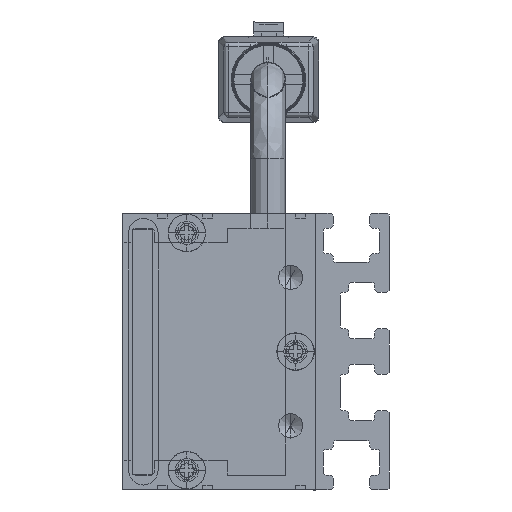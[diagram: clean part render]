
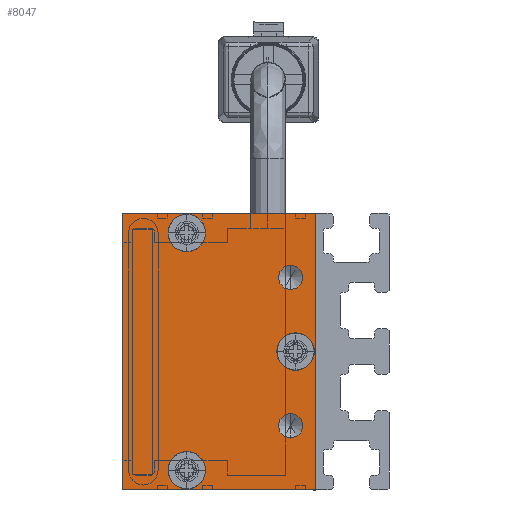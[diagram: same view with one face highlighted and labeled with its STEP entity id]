
A CAD part, left-side view. The second image highlights one B-rep face of the part: STEP entity #8047.
In plain terms, the highlighted planar face has unit normal (-1, 0, 0) as drawn and (0, 0, -1) by its records, which use the part's own axes.
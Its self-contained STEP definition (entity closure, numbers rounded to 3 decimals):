
#79 = CARTESIAN_POINT ( 'NONE',  ( 0., 2., -2.5 ) ) ;
#84 = VECTOR ( 'NONE', #10727, 1000. ) ;
#87 = EDGE_CURVE ( 'NONE', #282, #6640, #9477, .T. ) ;
#282 = VERTEX_POINT ( 'NONE', #3475 ) ;
#326 = VERTEX_POINT ( 'NONE', #2276 ) ;
#575 = CARTESIAN_POINT ( 'NONE',  ( -1.9, 2., -2.5 ) ) ;
#612 = CARTESIAN_POINT ( 'NONE',  ( -12., 13., -2.5 ) ) ;
#841 = CARTESIAN_POINT ( 'NONE',  ( 14., 19.5, -2.5 ) ) ;
#901 = FACE_OUTER_BOUND ( 'NONE', #4913, .T. ) ;
#913 = CARTESIAN_POINT ( 'NONE',  ( 14., 0., -2.5 ) ) ;
#964 = DIRECTION ( 'NONE',  ( -1., 0., 0. ) ) ;
#1053 = DIRECTION ( 'NONE',  ( 0., 0., -1. ) ) ;
#1056 = CARTESIAN_POINT ( 'NONE',  ( 14., 0., -2.5 ) ) ;
#1088 = AXIS2_PLACEMENT_3D ( 'NONE', #2171, #3171, #13031 ) ;
#1117 = CIRCLE ( 'NONE', #12235, 1.9 ) ;
#1308 = DIRECTION ( 'NONE',  ( -1., 0., 0. ) ) ;
#1373 = EDGE_CURVE ( 'NONE', #326, #11879, #8151, .T. ) ;
#1428 = EDGE_LOOP ( 'NONE', ( #2716, #10143 ) ) ;
#1544 = CARTESIAN_POINT ( 'NONE',  ( 12., 13., -2.5 ) ) ;
#1550 = DIRECTION ( 'NONE',  ( -1., 0., 0. ) ) ;
#1559 = EDGE_CURVE ( 'NONE', #11879, #10570, #3478, .T. ) ;
#1588 = CIRCLE ( 'NONE', #9559, 1.9 ) ;
#2171 = CARTESIAN_POINT ( 'NONE',  ( -7.5, 2.5, -2.5 ) ) ;
#2276 = CARTESIAN_POINT ( 'NONE',  ( 14., 19.5, -2.5 ) ) ;
#2284 = DIRECTION ( 'NONE',  ( 0., 0., -1. ) ) ;
#2316 = CARTESIAN_POINT ( 'NONE',  ( 1.9, 2., -2.5 ) ) ;
#2549 = CARTESIAN_POINT ( 'NONE',  ( 12., 13., -2.5 ) ) ;
#2716 = ORIENTED_EDGE ( 'NONE', *, *, #4802, .F. ) ;
#2905 = PLANE ( 'NONE',  #10510 ) ;
#2940 = AXIS2_PLACEMENT_3D ( 'NONE', #2549, #13461, #1550 ) ;
#3030 = FACE_BOUND ( 'NONE', #5653, .T. ) ;
#3171 = DIRECTION ( 'NONE',  ( 0., 0., -1. ) ) ;
#3338 = DIRECTION ( 'NONE',  ( 0., -1., 0. ) ) ;
#3345 = DIRECTION ( 'NONE',  ( -1., 0., 0. ) ) ;
#3475 = CARTESIAN_POINT ( 'NONE',  ( -6.25, 2.5, -2.5 ) ) ;
#3478 = LINE ( 'NONE', #9056, #8217 ) ;
#3527 = EDGE_CURVE ( 'NONE', #4820, #8877, #10660, .T. ) ;
#3578 = CARTESIAN_POINT ( 'NONE',  ( -8.75, 2.5, -2.5 ) ) ;
#3777 = EDGE_CURVE ( 'NONE', #13880, #10820, #13475, .T. ) ;
#3779 = CARTESIAN_POINT ( 'NONE',  ( 10.1, 13., -2.5 ) ) ;
#3903 = DIRECTION ( 'NONE',  ( 0., 1., 0. ) ) ;
#4109 = FACE_BOUND ( 'NONE', #7325, .T. ) ;
#4286 = ORIENTED_EDGE ( 'NONE', *, *, #11229, .F. ) ;
#4378 = DIRECTION ( 'NONE',  ( 0., 0., -1. ) ) ;
#4575 = CARTESIAN_POINT ( 'NONE',  ( -12., 13., -2.5 ) ) ;
#4646 = EDGE_CURVE ( 'NONE', #9327, #326, #12560, .T. ) ;
#4752 = EDGE_CURVE ( 'NONE', #10570, #9327, #12774, .T. ) ;
#4773 = VERTEX_POINT ( 'NONE', #5528 ) ;
#4802 = EDGE_CURVE ( 'NONE', #11714, #4773, #8731, .T. ) ;
#4820 = VERTEX_POINT ( 'NONE', #2316 ) ;
#4913 = EDGE_LOOP ( 'NONE', ( #13959, #10298, #8239, #12708 ) ) ;
#5037 = VECTOR ( 'NONE', #11620, 1000. ) ;
#5148 = DIRECTION ( 'NONE',  ( -1., 0., 0. ) ) ;
#5187 = FACE_BOUND ( 'NONE', #7510, .T. ) ;
#5429 = AXIS2_PLACEMENT_3D ( 'NONE', #13899, #1053, #10795 ) ;
#5528 = CARTESIAN_POINT ( 'NONE',  ( 8.75, 2.5, -2.5 ) ) ;
#5650 = ORIENTED_EDGE ( 'NONE', *, *, #7003, .F. ) ;
#5653 = EDGE_LOOP ( 'NONE', ( #4286, #9836 ) ) ;
#5705 = ORIENTED_EDGE ( 'NONE', *, *, #7730, .F. ) ;
#5787 = DIRECTION ( 'NONE',  ( -1., 0., 0. ) ) ;
#5974 = DIRECTION ( 'NONE',  ( -1., 0., 0. ) ) ;
#6183 = AXIS2_PLACEMENT_3D ( 'NONE', #12795, #9489, #5148 ) ;
#6223 = ORIENTED_EDGE ( 'NONE', *, *, #11914, .F. ) ;
#6326 = ORIENTED_EDGE ( 'NONE', *, *, #3527, .F. ) ;
#6356 = CIRCLE ( 'NONE', #1088, 1.25 ) ;
#6361 = EDGE_LOOP ( 'NONE', ( #9923, #5705 ) ) ;
#6424 = EDGE_CURVE ( 'NONE', #12613, #9300, #1117, .T. ) ;
#6608 = CARTESIAN_POINT ( 'NONE',  ( -7.5, 2.5, -2.5 ) ) ;
#6640 = VERTEX_POINT ( 'NONE', #3578 ) ;
#6679 = DIRECTION ( 'NONE',  ( 0., 0., -1. ) ) ;
#6819 = CIRCLE ( 'NONE', #2940, 1.9 ) ;
#7003 = EDGE_CURVE ( 'NONE', #8877, #4820, #1588, .T. ) ;
#7155 = AXIS2_PLACEMENT_3D ( 'NONE', #8811, #6679, #13315 ) ;
#7178 = CIRCLE ( 'NONE', #12809, 1.9 ) ;
#7263 = CARTESIAN_POINT ( 'NONE',  ( 0., 0., -2.5 ) ) ;
#7305 = CARTESIAN_POINT ( 'NONE',  ( -14., 19.5, -2.5 ) ) ;
#7325 = EDGE_LOOP ( 'NONE', ( #5650, #6326 ) ) ;
#7395 = DIRECTION ( 'NONE',  ( 0., 0., -1. ) ) ;
#7510 = EDGE_LOOP ( 'NONE', ( #8829, #6223 ) ) ;
#7656 = AXIS2_PLACEMENT_3D ( 'NONE', #6608, #4378, #1308 ) ;
#7730 = EDGE_CURVE ( 'NONE', #9300, #12613, #7178, .T. ) ;
#7988 = CARTESIAN_POINT ( 'NONE',  ( 13.9, 13., -2.5 ) ) ;
#8047 = ADVANCED_FACE ( 'NONE', ( #5187, #8453, #4109, #12763, #3030, #901 ), #2905, .T. ) ;
#8151 = LINE ( 'NONE', #7305, #5037 ) ;
#8217 = VECTOR ( 'NONE', #3338, 1000. ) ;
#8239 = ORIENTED_EDGE ( 'NONE', *, *, #1559, .F. ) ;
#8450 = DIRECTION ( 'NONE',  ( 0., 0., -1. ) ) ;
#8453 = FACE_BOUND ( 'NONE', #6361, .T. ) ;
#8731 = CIRCLE ( 'NONE', #7155, 1.25 ) ;
#8811 = CARTESIAN_POINT ( 'NONE',  ( 7.5, 2.5, -2.5 ) ) ;
#8820 = CARTESIAN_POINT ( 'NONE',  ( -14., 19.5, -2.5 ) ) ;
#8829 = ORIENTED_EDGE ( 'NONE', *, *, #3777, .F. ) ;
#8871 = CARTESIAN_POINT ( 'NONE',  ( -13.9, 13., -2.5 ) ) ;
#8877 = VERTEX_POINT ( 'NONE', #575 ) ;
#8974 = EDGE_CURVE ( 'NONE', #4773, #11714, #12275, .T. ) ;
#9056 = CARTESIAN_POINT ( 'NONE',  ( -14., 0., -2.5 ) ) ;
#9300 = VERTEX_POINT ( 'NONE', #10395 ) ;
#9327 = VERTEX_POINT ( 'NONE', #1056 ) ;
#9431 = AXIS2_PLACEMENT_3D ( 'NONE', #1544, #12547, #5974 ) ;
#9477 = CIRCLE ( 'NONE', #7656, 1.25 ) ;
#9489 = DIRECTION ( 'NONE',  ( 0., 0., -1. ) ) ;
#9559 = AXIS2_PLACEMENT_3D ( 'NONE', #79, #2284, #3345 ) ;
#9836 = ORIENTED_EDGE ( 'NONE', *, *, #87, .F. ) ;
#9923 = ORIENTED_EDGE ( 'NONE', *, *, #6424, .F. ) ;
#10143 = ORIENTED_EDGE ( 'NONE', *, *, #8974, .F. ) ;
#10298 = ORIENTED_EDGE ( 'NONE', *, *, #4752, .F. ) ;
#10395 = CARTESIAN_POINT ( 'NONE',  ( -10.1, 13., -2.5 ) ) ;
#10510 = AXIS2_PLACEMENT_3D ( 'NONE', #7263, #7395, #964 ) ;
#10570 = VERTEX_POINT ( 'NONE', #13132 ) ;
#10660 = CIRCLE ( 'NONE', #5429, 1.9 ) ;
#10727 = DIRECTION ( 'NONE',  ( 1., 0., 0. ) ) ;
#10795 = DIRECTION ( 'NONE',  ( -1., 0., 0. ) ) ;
#10820 = VERTEX_POINT ( 'NONE', #7988 ) ;
#11229 = EDGE_CURVE ( 'NONE', #6640, #282, #6356, .T. ) ;
#11620 = DIRECTION ( 'NONE',  ( -1., 0., 0. ) ) ;
#11714 = VERTEX_POINT ( 'NONE', #12917 ) ;
#11879 = VERTEX_POINT ( 'NONE', #8820 ) ;
#11914 = EDGE_CURVE ( 'NONE', #10820, #13880, #6819, .T. ) ;
#12023 = DIRECTION ( 'NONE',  ( 0., 0., -1. ) ) ;
#12098 = VECTOR ( 'NONE', #3903, 1000. ) ;
#12235 = AXIS2_PLACEMENT_3D ( 'NONE', #4575, #12023, #5787 ) ;
#12275 = CIRCLE ( 'NONE', #6183, 1.25 ) ;
#12547 = DIRECTION ( 'NONE',  ( 0., 0., -1. ) ) ;
#12560 = LINE ( 'NONE', #841, #12098 ) ;
#12613 = VERTEX_POINT ( 'NONE', #8871 ) ;
#12708 = ORIENTED_EDGE ( 'NONE', *, *, #1373, .F. ) ;
#12761 = DIRECTION ( 'NONE',  ( -1., 0., 0. ) ) ;
#12763 = FACE_BOUND ( 'NONE', #1428, .T. ) ;
#12774 = LINE ( 'NONE', #913, #84 ) ;
#12795 = CARTESIAN_POINT ( 'NONE',  ( 7.5, 2.5, -2.5 ) ) ;
#12809 = AXIS2_PLACEMENT_3D ( 'NONE', #612, #8450, #12761 ) ;
#12917 = CARTESIAN_POINT ( 'NONE',  ( 6.25, 2.5, -2.5 ) ) ;
#13031 = DIRECTION ( 'NONE',  ( -1., 0., 0. ) ) ;
#13132 = CARTESIAN_POINT ( 'NONE',  ( -14., 0., -2.5 ) ) ;
#13315 = DIRECTION ( 'NONE',  ( -1., 0., 0. ) ) ;
#13461 = DIRECTION ( 'NONE',  ( 0., 0., -1. ) ) ;
#13475 = CIRCLE ( 'NONE', #9431, 1.9 ) ;
#13880 = VERTEX_POINT ( 'NONE', #3779 ) ;
#13899 = CARTESIAN_POINT ( 'NONE',  ( 0., 2., -2.5 ) ) ;
#13959 = ORIENTED_EDGE ( 'NONE', *, *, #4646, .F. ) ;
